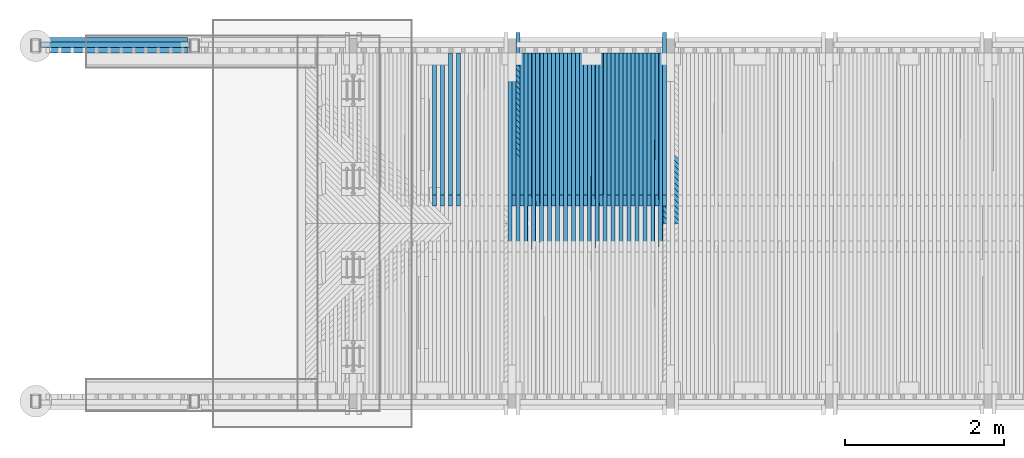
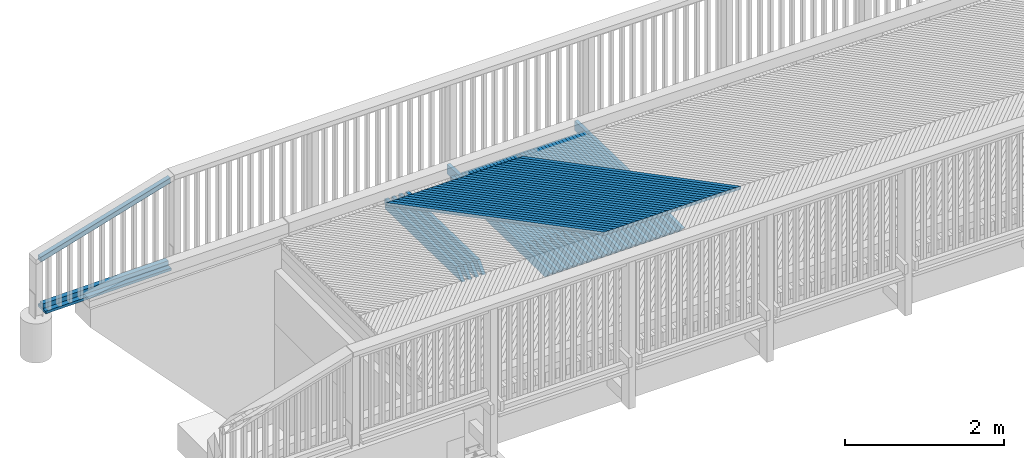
# One storey, part 20 of 52: 75 beams.
"""IFC2X3 building model written with IfcOpenShell, lengths in millimetres."""

from ifc_helpers import new_model, si_unit, frame, origin_with_axes, place, context, subcontext, project, spatial, faceted_brep, material, type_object, element, save


model = new_model("IFC2X3")

# Units and contexts
model_context = context("Model", 3, precision=1e-05, world=origin_with_axes())
body_context = subcontext(model_context, "Body", "Model", "MODEL_VIEW")
ifc_project = project(units=[si_unit("LENGTHUNIT", "METRE", prefix="MILLI"), si_unit("AREAUNIT", "SQUARE_METRE"), si_unit("VOLUMEUNIT", "CUBIC_METRE"), si_unit("MASSUNIT", "GRAM", prefix="KILO"), si_unit("TIMEUNIT", "SECOND"), si_unit("PLANEANGLEUNIT", "RADIAN"), si_unit("SOLIDANGLEUNIT", "STERADIAN"), si_unit("THERMODYNAMICTEMPERATUREUNIT", "DEGREE_CELSIUS"), si_unit("LUMINOUSINTENSITYUNIT", "LUMEN")], contexts=[model_context])

# Site, building, storey
site_placement = place(None, origin_with_axes())
site = spatial("IfcSite", under=ifc_project, at=site_placement, Name="Undefined", CompositionType="ELEMENT")
building_placement = place(site_placement, origin_with_axes())
building = spatial("IfcBuilding", under=site, at=building_placement, Name="Undefined", CompositionType="ELEMENT")
storey_placement = place(building_placement, origin_with_axes())
storey = spatial("IfcBuildingStorey", under=building, at=storey_placement, Name="Undefined", CompositionType="ELEMENT", Elevation=0.0)

# Beams
ifc_material = material(Name="TIMBER/Timber_Undefined")
beam_type_1 = type_object("IfcBeamType", Name="70*70", PredefinedType="NOTDEFINED")
beam_1_placement = place(storey_placement, frame((-3930.40492440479, 4619.99004526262, 3879.53617466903), z_axis=(0.0, 1.0, 0.0), x_axis=(0.958203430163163, 0.0, 0.286087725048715)))
element("IfcBeam", 1, at=beam_1_placement, inside=storey, type_object=beam_type_1, material=ifc_material, Name="BEAM", ObjectType="70*70", context=body_context, shape_type="Brep", body=[
    faceted_brep([(-20.4634471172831, 34.9999999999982, -35.0), (-20.4634471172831, 34.9999999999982, 35.0), (1941.54163533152, 34.9999999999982, 35.0), (1941.54163533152, 34.9999999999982, -35.0), (0.436228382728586, -35.0000000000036, 35.0), (1962.44131083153, -35.0000000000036, 35.0), (0.436228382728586, -35.0000000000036, -35.0), (1962.44131083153, -35.0000000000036, -35.0)], [[[0, 1, 2, 3]], [[1, 4, 5, 2]], [[4, 6, 7, 5]], [[6, 0, 3, 7]], [[5, 7, 3, 2]], [[6, 4, 1, 0]]]),
])
beam_2_placement = place(storey_placement, frame((-3909.4703719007, 4619.99002995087, 3156.34116342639), z_axis=(0.0, 1.0, 0.0), x_axis=(0.999883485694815, 0.0, 0.0152648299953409)))
element("IfcBeam", 2, at=beam_2_placement, inside=storey, type_object=beam_type_1, material=ifc_material, Name="BEAM", ObjectType="70*70", context=body_context, shape_type="Brep", body=[
    faceted_brep([(-3.63797880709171e-12, 35.0000000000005, -35.0), (-3.63797880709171e-12, 35.0000000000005, 35.0), (1820.22135781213, 35.0, 35.0), (1820.22135781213, 35.0, -35.0), (-3.63797880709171e-12, -34.9999999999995, 35.0), (1820.22135781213, -34.9999999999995, 35.0), (-3.63797880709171e-12, -34.9999999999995, -35.0), (1820.22135781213, -34.9999999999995, -35.0)], [[[0, 1, 2, 3]], [[1, 4, 5, 2]], [[4, 6, 7, 5]], [[6, 0, 3, 7]], [[5, 7, 3, 2]], [[6, 4, 1, 0]]]),
])
beam_type_2 = type_object("IfcBeamType", Name="195*40", PredefinedType="NOTDEFINED")
beam_3_placement = place(storey_placement, frame((-3909.69934434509, 4612.49002995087, 3101.33941571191), z_axis=(0.0, 1.0, 0.0), x_axis=(0.999883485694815, 0.0, 0.0152648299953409)))
element("IfcBeam", 3, at=beam_3_placement, inside=storey, type_object=beam_type_2, material=ifc_material, Name="BEAM", ObjectType="195*40", context=body_context, shape_type="Brep", body=[
    faceted_brep([(0.0, 20.0, -97.5), (0.0, 20.0, 97.5), (1820.22135781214, 20.0, 97.5), (1820.22135781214, 20.0, -97.5), (3.63797880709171e-12, -20.0, 97.5), (1820.22135781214, -20.0, 97.5), (3.63797880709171e-12, -20.0, -97.5), (1820.22135781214, -20.0, -97.5)], [[[0, 1, 2, 3]], [[1, 4, 5, 2]], [[4, 6, 7, 5]], [[6, 0, 3, 7]], [[5, 7, 3, 2]], [[6, 4, 1, 0]]]),
])
beam_type_3 = type_object("IfcBeamType", Name="50*50", PredefinedType="NOTDEFINED")
for number, where, z_axis, x_axis, name in (
    (4, (4882.50574585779, 2365.49989967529, 3228.05141176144), (0.707171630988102, 0.706981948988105, -0.00920913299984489), (-0.707007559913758, 0.706948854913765, -0.0190689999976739), "BEAM"),
    (5, (4811.78248202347, 2365.49989967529, 3227.68107523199), (0.707172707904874, 0.7069819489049, -0.00912606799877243), (-0.707005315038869, 0.706948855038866, -0.0191520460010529), "BEAM"),
    (6, (4741.05926217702, 2365.49989967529, 3227.30243150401), (0.70717377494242, 0.706981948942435, -0.00904300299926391), (-0.707003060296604, 0.706948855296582, -0.0192350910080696), "BEAM"),
    (7, (4670.33608729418, 2365.49989967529, 3226.91548058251), (0.707174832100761, 0.706981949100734, -0.00895993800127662), (-0.707000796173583, 0.706948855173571, -0.019318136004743), "BEAM"),
    (8, (4599.61295835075, 2365.49989967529, 3226.52022247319), (0.707175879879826, 0.706981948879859, -0.00887687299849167), (-0.706998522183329, 0.706948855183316, -0.0194011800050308), "BEAM"),
    (9, (4528.88987632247, 2365.49989967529, 3226.11665718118), (0.707176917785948, 0.706981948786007, -0.00879380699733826), (-0.706996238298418, 0.706948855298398, -0.0194842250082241), "BEAM"),
    (10, (4458.16684218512, 2365.49989967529, 3225.70478471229), (0.707177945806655, 0.706981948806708, -0.00871074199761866), (-0.706993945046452, 0.706948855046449, -0.0195672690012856), "BEAM"),
    (11, (4387.44385691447, 2365.49989967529, 3225.284605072), (0.707178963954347, 0.70698194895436, -0.0086276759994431), (-0.706991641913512, 0.706948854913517, -0.0196503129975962), "BEAM"),
    (12, (4316.72092148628, 2365.49989967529, 3224.85611826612), (0.707179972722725, 0.706981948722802, -0.0085446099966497), (-0.706989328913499, 0.706948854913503, -0.0197333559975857), "BEAM"),
    (13, (4245.99803687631, 2365.49989967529, 3224.41932430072), (0.707180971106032, 0.706981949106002, -0.00846154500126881), (-0.706987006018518, 0.706948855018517, -0.019816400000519), "BEAM"),
    (14, (4175.27520406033, 2365.49989967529, 3223.97422318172), (0.707181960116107, 0.706981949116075, -0.00837847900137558), (-0.706984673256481, 0.706948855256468, -0.0198994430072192), "BEAM"),
    (15, (4104.5524240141, 2365.49989967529, 3223.52081491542), (0.707182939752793, 0.706981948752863, -0.00829541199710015), (-0.706982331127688, 0.706948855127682, -0.019982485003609), "BEAM"),
    (16, (4033.82969771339, 2365.49989967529, 3223.05909950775), (0.707183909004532, 0.706981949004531, -0.00821234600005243), (-0.706979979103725, 0.70694885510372, -0.0200655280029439), "BEAM"),
    (17, (3963.10702613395, 2365.49989967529, 3222.58907696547), (0.707184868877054, 0.70698194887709, -0.00812927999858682), (-0.706977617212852, 0.706948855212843, -0.0201485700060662), "BEAM"),
    (18, (3892.38441025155, 2365.49989967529, 3222.11074729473), (0.707185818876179, 0.706981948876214, -0.00804621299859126), (-0.706975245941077, 0.706948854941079, -0.0202316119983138), "BEAM"),
    (19, (3821.66185104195, 2365.49989967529, 3221.62411050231), (0.707186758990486, 0.706981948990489, -0.0079631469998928), (-0.706972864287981, 0.706948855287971, -0.020314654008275), "BEAM"),
    (20, (3750.93934948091, 2365.49989967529, 3221.12916659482), (0.707187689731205, 0.706981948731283, -0.00788007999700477), (-0.706970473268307, 0.706948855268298, -0.0203976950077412), "BEAM"),
    (21, (3680.21690654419, 2365.49989967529, 3220.62591557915), (0.707188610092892, 0.706981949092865, -0.00779701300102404), (-0.70696807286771, 0.706948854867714, -0.0204807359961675), "BEAM"),
    (22, (3609.49452320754, 2365.49989967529, 3220.11435746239), (0.707189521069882, 0.706981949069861, -0.00771394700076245), (-0.70696566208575, 0.706948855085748, -0.0205637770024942), "BEAM"),
    (23, (3538.77220044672, 2365.49989967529, 3219.59449225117), (0.707190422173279, 0.706981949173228, -0.00763088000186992), (-0.706963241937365, 0.706948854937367, -0.0206468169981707), "BEAM"),
    (24, (3468.04993923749, 2365.49989967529, 3219.06631995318), (0.707191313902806, 0.706981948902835, -0.00754781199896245), (-0.706960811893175, 0.706948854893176, -0.0207298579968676), "BEAM"),
    (25, (3397.3277405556, 2365.49989967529, 3218.52984057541), (0.707192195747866, 0.706981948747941, -0.00746474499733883), (-0.70695837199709, 0.706948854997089, -0.0208128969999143), "BEAM"),
    (26, (3326.60560537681, 2365.49989967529, 3217.98505412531), (0.707193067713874, 0.70698194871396, -0.00738167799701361), (-0.706955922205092, 0.70694885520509, -0.0208959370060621), "BEAM"),
    (27, (3255.88353467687, 2365.49989967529, 3217.43196061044), (0.707193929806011, 0.706981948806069, -0.00729860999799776), (-0.706953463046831, 0.706948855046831, -0.0209789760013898), "BEAM"),
    (28, (3185.16152943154, 2365.49989967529, 3216.87056003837), (0.707194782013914, 0.70698194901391, -0.00721554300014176), (-0.706950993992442, 0.706948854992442, -0.0210620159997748), "BEAM"),
    (29, (3114.43959061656, 2365.49989967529, 3216.30085241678), (0.707195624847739, 0.706981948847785, -0.00713247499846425), (-0.706948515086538, 0.706948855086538, -0.0211450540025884), "BEAM"),
    (30, (3043.7177192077, 2365.49989967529, 3215.72283775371), (0.707196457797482, 0.706981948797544, -0.00704940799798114), (-0.706946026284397, 0.706948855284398, -0.0212280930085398), "BEAM"),
    (31, (2972.99591618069, 2365.49989967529, 3215.13651605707), (0.70719728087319, 0.706981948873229, -0.00696633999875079), (-0.706943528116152, 0.706948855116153, -0.0213111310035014), "BEAM"),
):
    element("IfcBeam", number, at=place(storey_placement, frame(where, z_axis=z_axis, x_axis=x_axis)), inside=storey, type_object=beam_type_3, material=ifc_material, Name=name, ObjectType="50*50", context=body_context, shape_type="Brep", body=[
        faceted_brep([(23.5869248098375, 25.0, -25.0000000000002), (-26.4154158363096, 25.0000000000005, 24.9999999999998), (2802.92643296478, 25.0, 24.9999999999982), (2852.92877373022, 25.0000000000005, -25.0), (-25.0011704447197, -25.0, 24.9999999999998), (2804.3406783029, -25.0000000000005, 24.9999999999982), (25.0011701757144, -25.0, -25.0), (2854.34301907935, -24.9999999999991, -25.0)], [[[0, 1, 2, 3]], [[1, 4, 5, 2]], [[4, 6, 7, 5]], [[6, 0, 3, 7]], [[5, 7, 3, 2]], [[6, 4, 1, 0]]]),
    ])
beam_type_4 = type_object("IfcBeamType", Name="150*50", PredefinedType="NOTDEFINED")
for number, where, z_axis, x_axis, name in (
    (32, (3875.98195239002, 4513.4953923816, 3079.01849258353), (-0.00693257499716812, 0.0199960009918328, 0.99977602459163), (-0.000138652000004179, -0.99980006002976, 0.0199955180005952), "BEAM"),
    (33, (3775.96432395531, 4513.4953923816, 3078.32495570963), (-0.007098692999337, 0.0199960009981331, 0.999774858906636), (-0.00014197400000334, -0.999800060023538, 0.0199954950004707), "BEAM"),
    (34, (3675.94681213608, 4513.4953923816, 3077.61480038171), (-0.00726481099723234, 0.0199960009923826, 0.999773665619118), (-0.000145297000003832, -0.999800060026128, 0.0199954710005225), "BEAM"),
    (35, (3575.92941969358, 4513.4953923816, 3076.88802661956), (-0.00743092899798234, 0.0199960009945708, 0.999772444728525), (-0.000148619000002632, -0.999800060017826, 0.0199954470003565), "BEAM"),
    (36, (3475.91214938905, 4513.4953923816, 3076.1446344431), (-0.00759704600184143, 0.0199960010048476, 0.99977119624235), (-0.000151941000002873, -0.999800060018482, 0.0199954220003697), "BEAM"),
    (37, (3375.89500398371, 4513.4953923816, 3075.38462387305), (-0.00776316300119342, 0.0199960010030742, 0.999769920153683), (-0.000155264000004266, -0.999800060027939, 0.0199953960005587), "BEAM"),
    (38, (3275.87798623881, 4513.4953923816, 3074.60799493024), (-0.0079292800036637, 0.0199960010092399, 0.99976861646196), (-0.000158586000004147, -0.999800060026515, 0.0199953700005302), "BEAM"),
    (39, (3175.86109891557, 4513.4953923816, 3073.81474763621), (-0.00809539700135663, 0.0199960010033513, 0.999767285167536), (-0.000161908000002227, -0.999800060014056, 0.0199953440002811), "BEAM"),
    (40, (3075.84434477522, 4513.4953923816, 3073.00488201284), (-0.00826151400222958, 0.0199960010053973, 0.999765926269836), (-0.000165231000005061, -0.999800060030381, 0.0199953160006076), "BEAM"),
    (41, (2975.82772657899, 4513.4953923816, 3072.1783980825), (-0.00842762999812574, 0.0199960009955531, 0.999764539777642), (-0.0001685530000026, -0.999800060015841, 0.0199952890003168), "BEAM"),
    (42, (2875.81124708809, 4513.4953923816, 3071.33529586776), (-0.00859374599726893, 0.0199960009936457, 0.999763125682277), (-0.000171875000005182, -0.999800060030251, 0.019995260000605), "BEAM"),
    (43, (2775.79490906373, 4513.4953923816, 3070.47557539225), (-0.00875986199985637, 0.0199960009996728, 0.999761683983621), (-0.000175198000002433, -0.999800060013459, 0.0199952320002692), "BEAM"),
    (44, (2675.77871526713, 4513.4953923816, 3069.5992366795), (-0.00892597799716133, 0.0199960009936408, 0.999760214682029), (-0.000178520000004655, -0.999800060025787, 0.0199952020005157), "BEAM"),
    (45, (2575.76266845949, 4513.4953923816, 3068.70627975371), (-0.00909209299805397, 0.0199960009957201, 0.999758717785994), (-0.000181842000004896, -0.999800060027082, 0.0199951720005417), "BEAM"),
    (46, (2475.74677140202, 4513.4953923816, 3067.79670463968), (-0.00925820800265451, 0.0199960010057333, 0.999757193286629), (-0.000185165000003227, -0.999800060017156, 0.0199951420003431), "BEAM"),
    (47, (2375.73102685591, 4513.4953923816, 3066.87051136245), (-0.00942432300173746, 0.0199960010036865, 0.999755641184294), (-0.000188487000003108, -0.999800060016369, 0.0199951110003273), "BEAM"),
    (48, (2275.71543758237, 4513.4953923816, 3065.9276999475), (-0.00959043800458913, 0.0199960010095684, 0.999754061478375), (-0.00019180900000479, -0.999800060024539, 0.0199950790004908), "BEAM"),
    (49, (2175.70000634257, 4513.4953923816, 3064.96827042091), (-0.00975655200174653, 0.0199960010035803, 0.999752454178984), (-0.000195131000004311, -0.999800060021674, 0.0199950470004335), "BEAM"),
):
    element("IfcBeam", number, at=place(storey_placement, frame(where, z_axis=z_axis, x_axis=x_axis)), inside=storey, type_object=beam_type_4, material=ifc_material, Name=name, ObjectType="150*50", context=body_context, shape_type="Brep", body=[
        faceted_brep([(-1.67788130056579e-07, -24.9999999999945, -74.9999999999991), (-1.67787220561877e-07, 25.0000000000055, -75.0), (2375.00494422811, 25.0000000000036, -74.9999999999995), (2375.0049444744, -24.9999999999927, -74.9999999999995), (1.67786311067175e-07, -24.9999999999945, 75.0000000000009), (1.67786311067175e-07, 25.0000000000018, 75.0), (2150.42515052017, 25.0000000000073, 75.0), (2510.59248715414, 25.0000000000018, 60.5875433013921), (2510.5924871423, -24.9999999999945, 60.5875430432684), (2150.42514405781, -24.9999999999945, 75.0000000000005)], [[[0, 1, 2, 3]], [[0, 4, 5, 1]], [[2, 1, 5, 6, 7]], [[3, 2, 7, 8]], [[4, 0, 3, 8, 9]], [[5, 4, 9, 6]], [[8, 7, 6, 9]]]),
    ])
for number, where, z_axis, x_axis, name in (
    (50, (3825.98315440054, 4513.49539238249, 3078.67179443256), (-0.00693257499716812, 0.0199960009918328, 0.99977602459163), (-0.000138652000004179, -0.99980006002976, 0.0199955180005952), "BEAM"),
    (51, (3725.96558426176, 4513.49539238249, 3077.96994999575), (-0.007098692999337, 0.0199960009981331, 0.999774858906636), (-0.00014197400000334, -0.999800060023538, 0.0199954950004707), "BEAM"),
    (52, (3625.9481321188, 4513.49539238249, 3077.25148711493), (-0.00726481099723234, 0.0199960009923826, 0.999773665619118), (-0.000145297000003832, -0.999800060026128, 0.0199954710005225), "BEAM"),
    (53, (3525.93080073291, 4513.49539238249, 3076.51640581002), (-0.00743092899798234, 0.0199960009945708, 0.999772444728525), (-0.000148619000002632, -0.999800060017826, 0.0199954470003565), "BEAM"),
    (54, (3425.91359286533, 4513.49539238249, 3075.76470610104), (-0.00759704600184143, 0.0199960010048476, 0.99977119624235), (-0.000151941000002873, -0.999800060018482, 0.0199954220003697), "BEAM"),
    (55, (3325.89651127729, 4513.49539238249, 3074.99638800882), (-0.00776316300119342, 0.0199960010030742, 0.999769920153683), (-0.000155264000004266, -0.999800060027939, 0.0199953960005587), "BEAM"),
    (56, (3225.87955873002, 4513.49539238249, 3074.21145155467), (-0.0079292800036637, 0.0199960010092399, 0.99976861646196), (-0.000158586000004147, -0.999800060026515, 0.0199953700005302), "BEAM"),
    (57, (3125.86273798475, 4513.49539238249, 3073.40989676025), (-0.00809539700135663, 0.0199960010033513, 0.999767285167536), (-0.000161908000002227, -0.999800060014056, 0.0199953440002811), "BEAM"),
    (58, (3025.84605180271, 4513.49539238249, 3072.59172364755), (-0.00826151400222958, 0.0199960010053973, 0.999765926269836), (-0.000165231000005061, -0.999800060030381, 0.0199953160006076), "BEAM"),
    (59, (2925.82950294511, 4513.49539238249, 3071.75693223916), (-0.00842762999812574, 0.0199960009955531, 0.999764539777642), (-0.0001685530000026, -0.999800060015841, 0.0199952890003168), "BEAM"),
    (60, (2825.81309417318, 4513.49539238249, 3070.90552255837), (-0.00859374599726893, 0.0199960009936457, 0.999763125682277), (-0.000171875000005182, -0.999800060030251, 0.019995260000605), "BEAM"),
    (61, (2725.79682824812, 4513.49539238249, 3070.03749462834), (-0.00875986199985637, 0.0199960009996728, 0.999761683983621), (-0.000175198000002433, -0.999800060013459, 0.0199952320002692), "BEAM"),
    (62, (2625.78070793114, 4513.49539238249, 3069.1528484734), (-0.00892597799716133, 0.0199960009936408, 0.999760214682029), (-0.000178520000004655, -0.999800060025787, 0.0199952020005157), "BEAM"),
    (63, (2525.76473598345, 4513.49539238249, 3068.25158411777), (-0.00909209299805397, 0.0199960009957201, 0.999758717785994), (-0.000181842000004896, -0.999800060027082, 0.0199951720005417), "BEAM"),
    (64, (2425.74891516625, 4513.49539238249, 3067.33370158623), (-0.00925820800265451, 0.0199960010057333, 0.999757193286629), (-0.000185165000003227, -0.999800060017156, 0.0199951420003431), "BEAM"),
    (65, (2325.73324824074, 4513.49539238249, 3066.39920090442), (-0.00942432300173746, 0.0199960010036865, 0.999755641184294), (-0.000188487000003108, -0.999800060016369, 0.0199951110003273), "BEAM"),
    (66, (2225.7177379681, 4513.49539238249, 3065.44808209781), (-0.00959043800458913, 0.0199960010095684, 0.999754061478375), (-0.00019180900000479, -0.999800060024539, 0.0199950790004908), "BEAM"),
    (67, (2125.70238710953, 4513.49539238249, 3064.48034519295), (-0.00975655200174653, 0.0199960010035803, 0.999752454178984), (-0.000195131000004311, -0.999800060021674, 0.0199950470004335), "BEAM"),
):
    element("IfcBeam", number, at=place(storey_placement, frame(where, z_axis=z_axis, x_axis=x_axis)), inside=storey, type_object=beam_type_4, material=ifc_material, Name=name, ObjectType="150*50", context=body_context, shape_type="Brep", body=[
        faceted_brep([(-1.67788130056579e-07, -24.9999999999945, -74.9999999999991), (1.67786311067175e-07, -24.9999999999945, 75.0000000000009), (1.67786311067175e-07, 25.0000000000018, 75.0), (-1.67787220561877e-07, 25.0000000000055, -75.0), (1928.42646328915, 24.9999999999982, -74.9999999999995), (1928.42646353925, -25.0, -75.0), (1789.96936433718, -25.0000000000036, 74.9999999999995), (1789.96936408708, 24.9999999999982, 75.0000000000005)], [[[0, 1, 2, 3]], [[0, 3, 4, 5]], [[1, 0, 5, 6]], [[2, 1, 6, 7]], [[3, 2, 7, 4]], [[4, 7, 6, 5]]]),
    ])
beam_4_placement = place(storey_placement, frame((3925.42477816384, 4771.44380785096, 3074.19674304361), z_axis=(-0.0067664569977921, 0.0199960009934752, 0.999777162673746), x_axis=(-0.000135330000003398, -0.999800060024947, 0.019995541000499)))
element("IfcBeam", 68, at=beam_4_placement, inside=storey, type_object=beam_type_4, material=ifc_material, Name="BEAM", ObjectType="150*50", context=body_context, shape_type="Brep", body=[
    faceted_brep([(-1.67788130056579e-07, -24.9999999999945, -74.9999999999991), (1.67786311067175e-07, -24.9999999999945, 75.0000000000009), (1.67786311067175e-07, 25.0000000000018, 75.0), (-1.67787220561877e-07, 25.0000000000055, -75.0), (2186.42646676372, 24.9999999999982, -75.0), (2186.42645144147, -25.0, -75.0), (2047.96935255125, -25.0, 75.0), (2047.9693678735, 25.0, 75.0)], [[[0, 1, 2, 3]], [[0, 3, 4, 5]], [[1, 0, 5, 6]], [[2, 1, 6, 7]], [[3, 2, 7, 4]], [[4, 7, 6, 5]]]),
])
beam_5_placement = place(storey_placement, frame((2075.63087990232, 4771.44380785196, 3058.83247523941), z_axis=(-0.00992284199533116, 0.0199960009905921, 0.999750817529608), x_axis=(-0.000198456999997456, -0.99980005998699, 0.0199950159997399)))
element("IfcBeam", 69, at=beam_5_placement, inside=storey, type_object=beam_type_4, material=ifc_material, Name="BEAM", ObjectType="150*50", context=body_context, shape_type="Brep", body=[
    faceted_brep([(-1.67788130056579e-07, -24.9999999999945, -74.9999999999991), (-1.67787220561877e-07, 25.0000000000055, -75.0), (2633.00494750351, 25.0, -74.9999999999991), (2633.00494763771, -25.0, -74.9999999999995), (1.67786311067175e-07, -24.9999999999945, 75.0000000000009), (1.67786311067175e-07, 25.0000000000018, 75.0), (2408.42506824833, 25.0, 75.0000000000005), (2768.59248710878, 24.9999999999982, 60.5875398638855), (2768.59248713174, -25.0, 60.5875397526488), (2408.42506549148, -25.0, 75.0000000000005)], [[[0, 1, 2, 3]], [[0, 4, 5, 1]], [[2, 1, 5, 6, 7]], [[3, 2, 7, 8]], [[4, 0, 3, 8, 9]], [[5, 4, 9, 6]], [[8, 7, 6, 9]]]),
])
beam_6_placement = place(storey_placement, frame((1975.66962900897, 4513.4953923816, 3062.99955713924), z_axis=(-0.0100889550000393, 0.0199960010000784, 0.9997491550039), x_axis=(-0.000201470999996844, -0.999800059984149, 0.0199949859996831)))
element("IfcBeam", 70, at=beam_6_placement, inside=storey, type_object=beam_type_4, material=ifc_material, Name="BEAM", ObjectType="150*50", context=body_context, shape_type="Brep", body=[
    faceted_brep([(-1.67788130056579e-07, -24.9999999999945, -74.9999999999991), (-1.67787220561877e-07, 25.0000000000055, -75.0), (2375.00494422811, 25.0000000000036, -74.9999999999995), (2375.0049444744, -24.9999999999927, -74.9999999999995), (1.67786311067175e-07, -24.9999999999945, 75.0000000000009), (1.67786311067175e-07, 25.0000000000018, 75.0), (2150.42515052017, 25.0000000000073, 75.0), (2510.59248715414, 25.0000000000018, 60.5875433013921), (2510.5924871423, -24.9999999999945, 60.5875430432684), (2150.42514405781, -24.9999999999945, 75.0000000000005)], [[[0, 1, 2, 3]], [[0, 4, 5, 1]], [[2, 1, 5, 6, 7]], [[3, 2, 7, 8]], [[4, 0, 3, 8, 9]], [[5, 4, 9, 6]], [[8, 7, 6, 9]]]),
])
for number, where, z_axis, x_axis, name in (
    (71, (2025.68719842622, 4513.49539238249, 3063.49599021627), (-0.00992284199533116, 0.0199960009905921, 0.999750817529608), (-0.000198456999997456, -0.99980005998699, 0.0199950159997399), "BEAM"),
    (72, (1325.58565048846, 4513.49539238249, 3056.14020171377), (-0.011085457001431, 0.0199960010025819, 0.999738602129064), (-0.00022170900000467, -0.999800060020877, 0.0199947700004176), "BEAM"),
    (73, (1225.57185860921, 4513.49539238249, 3055.02290318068), (-0.0112515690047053, 0.0199960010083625, 0.999736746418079), (-0.000225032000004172, -0.999800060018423, 0.0199947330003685), "BEAM"),
    (74, (1125.55825375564, 4513.49539238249, 3053.888986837), (-0.0114176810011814, 0.0199960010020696, 0.999734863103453), (-0.000228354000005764, -0.999800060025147, 0.0199946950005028), "BEAM"),
    (75, (1025.5448386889, 4513.49539238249, 3052.73845271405), (-0.0115837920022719, 0.0199960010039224, 0.999732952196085), (-0.000231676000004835, -0.999800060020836, 0.0199946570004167), "BEAM"),
):
    element("IfcBeam", number, at=place(storey_placement, frame(where, z_axis=z_axis, x_axis=x_axis)), inside=storey, type_object=beam_type_4, material=ifc_material, Name=name, ObjectType="150*50", context=body_context, shape_type="Brep", body=[
        faceted_brep([(-1.67788130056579e-07, -24.9999999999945, -74.9999999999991), (1.67786311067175e-07, -24.9999999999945, 75.0000000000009), (1.67786311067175e-07, 25.0000000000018, 75.0), (-1.67787220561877e-07, 25.0000000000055, -75.0), (1928.42646328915, 24.9999999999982, -74.9999999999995), (1928.42646353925, -25.0, -75.0), (1789.96936433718, -25.0000000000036, 74.9999999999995), (1789.96936408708, 24.9999999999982, 75.0000000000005)], [[[0, 1, 2, 3]], [[0, 3, 4, 5]], [[1, 0, 5, 6]], [[2, 1, 6, 7]], [[3, 2, 7, 4]], [[4, 7, 6, 5]]]),
    ])

save(model, "model.ifc")
